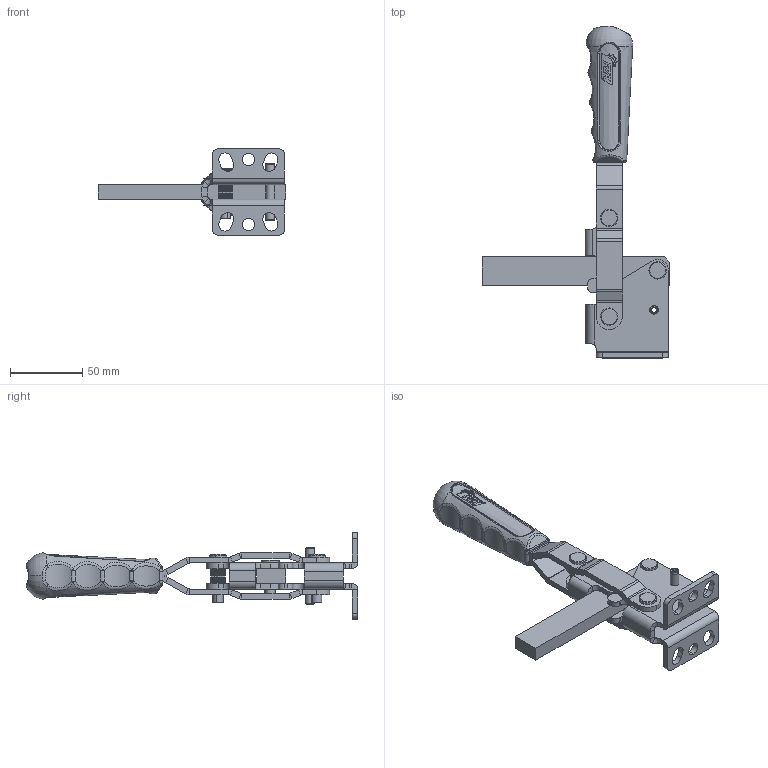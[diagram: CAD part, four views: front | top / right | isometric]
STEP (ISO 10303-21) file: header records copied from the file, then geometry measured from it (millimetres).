
FILE_DESCRIPTION (( 'STEP AP214' ), '1' );
FILE_NAME ('203_BL.STEP', '2024-09-09T16:28:22', ( '' ), ( '' ), 'SwSTEP 2.0', 'SolidWorks 2023', '' );
FILE_SCHEMA (( 'AUTOMOTIVE_DESIGN' ));
Length unit declared in the file: millimetre
Products named in the file (11): TTMK_03_00; Ø6x40 YARIKLI PİM; FZK_203_B_04_00; FZK_203_BL_01_00; FZK_203_B_05_00; FZK_203_B_03A_00; FZK_203_B_02_00; 203_BL; FZK_203_B_03_00; FZK_203_B_06_00; FZK_203_B_07_00
Assembly tree (14 placements, depth 3):
  203_BL
    FZK_203_B_05_00
    TTMK_03_00
    FZK_203_B_02_00
    FZK_203_B_03_00
      FZK_203_B_03A_00  x2
    FZK_203_B_07_00  x2
    FZK_203_B_06_00  x2
    FZK_203_BL_01_00
    FZK_203_B_04_00  x2
    Ø6x40 YARIKLI PİM
Bounding box: 130 x 229.74 x 60 mm (x, y, z)
Volume: 141401 mm3; surface area: 70213.3 mm2
Topology: 13 solids, 13 shells, 1245 faces, 3379 edges, 2163 vertices
Faces by surface type: cylinder 781, bspline 217, plane 178, cone 43, sphere 20, torus 6
Entity records: 43544 total; most frequent: CARTESIAN_POINT 24931, ORIENTED_EDGE 4510, DIRECTION 2687, EDGE_CURVE 2255, VERTEX_POINT 1445, B_SPLINE_CURVE_WITH_KNOTS 1208, AXIS2_PLACEMENT_3D 1007, EDGE_LOOP 904
